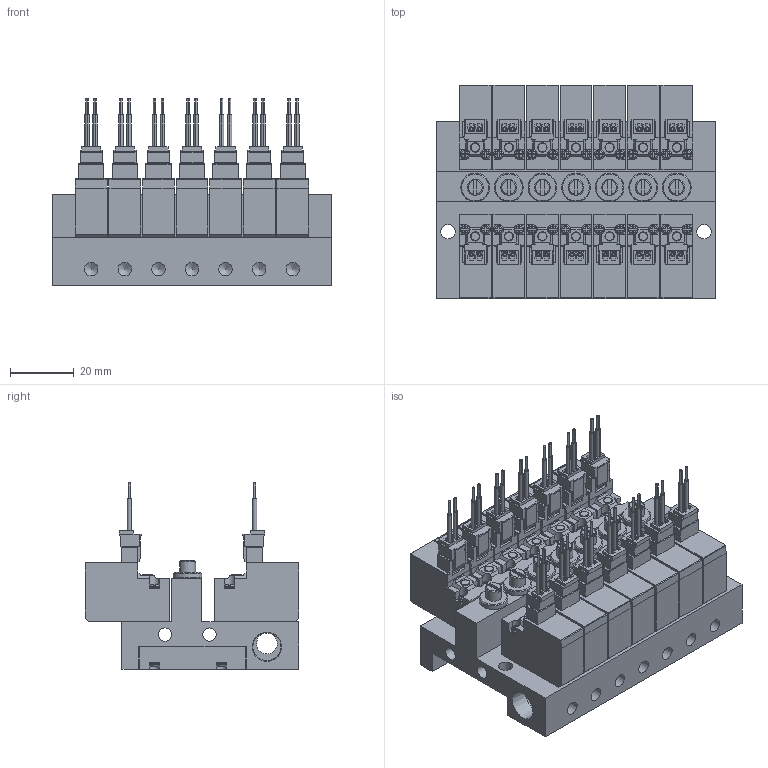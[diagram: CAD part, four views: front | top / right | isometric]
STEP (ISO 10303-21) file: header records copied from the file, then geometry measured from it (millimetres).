
FILE_DESCRIPTION(('STEP AP203'),'1');
FILE_NAME('1-NO(NC)-4EZ-M07.stp','2025-05-08T08:52:36',(' '),(' '),'Spatial InterOp 3D',' ',' ');
FILE_SCHEMA(('CONFIG_CONTROL_DESIGN'));
Length unit declared in the file: millimetre
Products named in the file (107): PV1※1-NO(NC)-4EZ-M07; BODY; PLATE; NEEDLE; BOLT; SOLENOID VALVE VOLTAGE PV; 42; 45; 48; 51
Assembly tree (106 placements, depth 3):
  PV1※1-NO(NC)-4EZ-M07
    BODY
    PLATE
    PLATE
    NEEDLE
    BOLT
    BOLT
    BOLT
    BOLT
    BOLT
    BOLT
    SOLENOID VALVE VOLTAGE PV
      42
      45
      48
      51
    SOLENOID VALVE VOLTAGE PV
      42
      45
      48
      51
    SOLENOID VALVE VOLTAGE PV
      42
      45
      48
      51
    NEEDLE
    SOLENOID VALVE VOLTAGE PV
      42
      45
      48
      51
    SOLENOID VALVE VOLTAGE PV
      42
      45
      48
      51
    NEEDLE
    SOLENOID VALVE VOLTAGE PV
      42
      45
      48
      51
    PLATE
    BOLT
    BOLT
    BOLT
    PLATE
    BOLT
    BOLT
    BOLT
    SOLENOID VALVE VOLTAGE PV
      42
      45
      48
      51
    NEEDLE
    SOLENOID VALVE VOLTAGE PV
      42
      45
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Bounding box: 87 x 66.8 x 58.25 mm (x, y, z)
Volume: 137527.7 mm3; surface area: 77811.9 mm2
Topology: 92 solids, 92 shells, 3378 faces, 9596 edges, 6621 vertices
Faces by surface type: plane 2382, cylinder 672, torus 182, bspline 98, cone 44
Full cylindrical faces by diameter (mm): 2 x21, 3 x21, 4.2 x16, 4.5 x2, 5 x7, 6.5 x1, 8.797 x2, 9 x7
Entity records: 116884 total; most frequent: CARTESIAN_POINT 21364, DIRECTION 19190, ORIENTED_EDGE 18738, EDGE_CURVE 9369, AXIS2_PLACEMENT_3D 6644, VERTEX_POINT 6550, LINE 5902, VECTOR 5902
